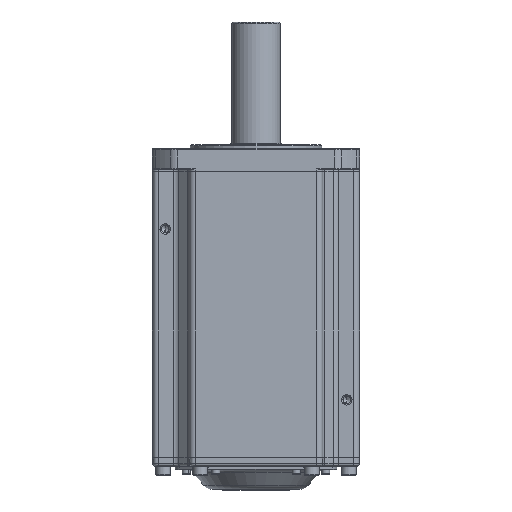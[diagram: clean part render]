
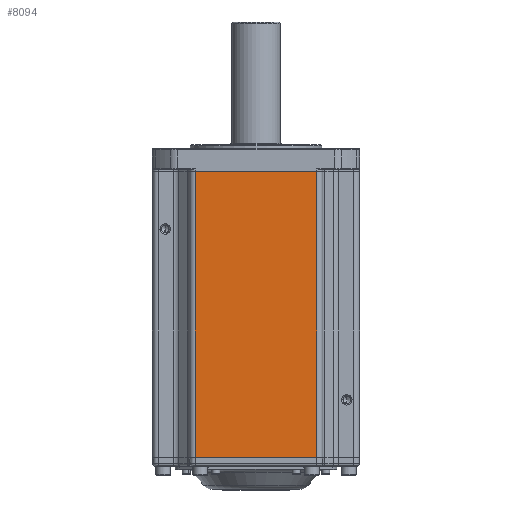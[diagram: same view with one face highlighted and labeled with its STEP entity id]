
A CAD part, front view. The second image highlights one B-rep face of the part: STEP entity #8094.
In plain terms, the highlighted planar face has unit normal (0, -1, 0).
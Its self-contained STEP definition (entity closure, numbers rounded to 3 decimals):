
#339 = LINE ( 'NONE', #12521, #48895 ) ;
#1493 = LINE ( 'NONE', #5906, #46947 ) ;
#4071 = PLANE ( 'NONE',  #57893 ) ;
#5906 = CARTESIAN_POINT ( 'NONE',  ( -52.974, -89.007, -896.673 ) ) ;
#8094 = ADVANCED_FACE ( 'NONE', ( #35171 ), #4071, .F. ) ;
#8635 = CARTESIAN_POINT ( 'NONE',  ( 53.026, -89.007, -145.273 ) ) ;
#9831 = ORIENTED_EDGE ( 'NONE', *, *, #42775, .T. ) ;
#12129 = VERTEX_POINT ( 'NONE', #8635 ) ;
#12521 = CARTESIAN_POINT ( 'NONE',  ( -154.318, -89.007, -145.273 ) ) ;
#19485 = CARTESIAN_POINT ( 'NONE',  ( 53.026, -89.007, 103.327 ) ) ;
#23858 = VERTEX_POINT ( 'NONE', #19485 ) ;
#25300 = CARTESIAN_POINT ( 'NONE',  ( 58.026, -89.007, 103.327 ) ) ;
#25495 = DIRECTION ( 'NONE',  ( 0., 0., -1. ) ) ;
#27832 = ORIENTED_EDGE ( 'NONE', *, *, #30776, .T. ) ;
#29640 = CARTESIAN_POINT ( 'NONE',  ( -52.974, -89.007, 103.327 ) ) ;
#29857 = EDGE_CURVE ( 'NONE', #35214, #12129, #339, .T. ) ;
#30776 = EDGE_CURVE ( 'NONE', #12129, #23858, #44534, .T. ) ;
#32185 = VECTOR ( 'NONE', #60833, 1000. ) ;
#33029 = VECTOR ( 'NONE', #55035, 1000. ) ;
#33251 = VERTEX_POINT ( 'NONE', #29640 ) ;
#34371 = DIRECTION ( 'NONE',  ( 0., 0., -1. ) ) ;
#35171 = FACE_OUTER_BOUND ( 'NONE', #35446, .T. ) ;
#35214 = VERTEX_POINT ( 'NONE', #50304 ) ;
#35446 = EDGE_LOOP ( 'NONE', ( #56800, #49245, #27832, #9831 ) ) ;
#35659 = EDGE_CURVE ( 'NONE', #33251, #35214, #1493, .T. ) ;
#42775 = EDGE_CURVE ( 'NONE', #23858, #33251, #51492, .T. ) ;
#44094 = DIRECTION ( 'NONE',  ( 0., 1., 0. ) ) ;
#44534 = LINE ( 'NONE', #56119, #32185 ) ;
#46947 = VECTOR ( 'NONE', #25495, 1000. ) ;
#47188 = DIRECTION ( 'NONE',  ( 1., 0., 0. ) ) ;
#48895 = VECTOR ( 'NONE', #47188, 1000. ) ;
#49245 = ORIENTED_EDGE ( 'NONE', *, *, #29857, .T. ) ;
#50304 = CARTESIAN_POINT ( 'NONE',  ( -52.974, -89.007, -145.273 ) ) ;
#51492 = LINE ( 'NONE', #25300, #33029 ) ;
#55035 = DIRECTION ( 'NONE',  ( -1., 0., 0. ) ) ;
#56119 = CARTESIAN_POINT ( 'NONE',  ( 53.026, -89.007, -896.673 ) ) ;
#56800 = ORIENTED_EDGE ( 'NONE', *, *, #35659, .T. ) ;
#57893 = AXIS2_PLACEMENT_3D ( 'NONE', #58730, #44094, #34371 ) ;
#58730 = CARTESIAN_POINT ( 'NONE',  ( 58.026, -89.007, -896.673 ) ) ;
#60833 = DIRECTION ( 'NONE',  ( 0., 0., 1. ) ) ;
